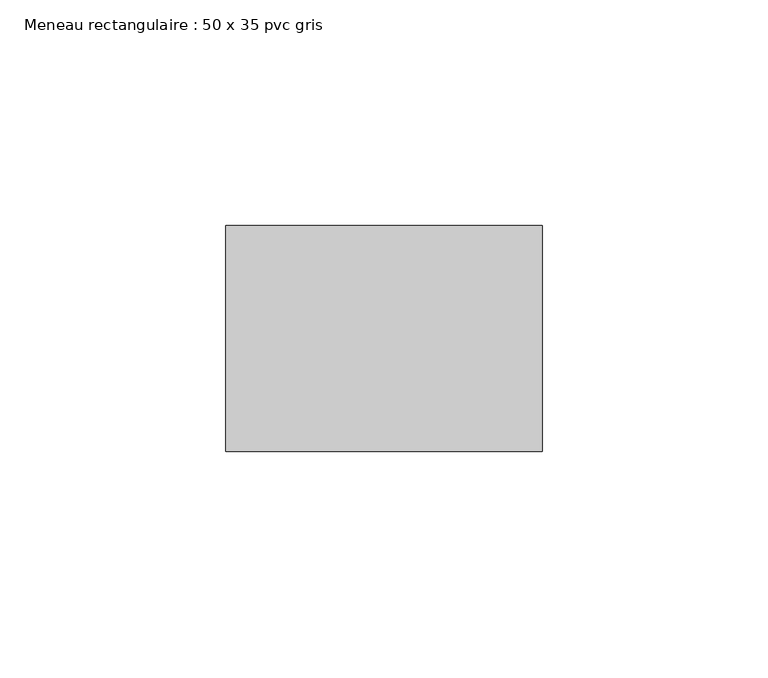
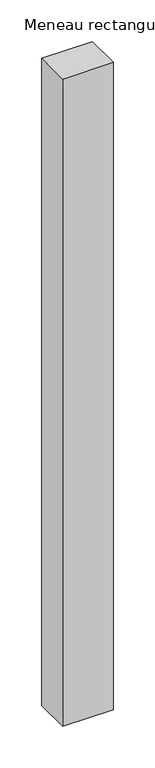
"""IFC4 building model written with IfcOpenShell, lengths in millimetres: member geometry, Meneau rectangulaire : 50 x 35 pvc gris."""

from ifc_helpers import new_model, si_unit, frame, origin, place, context, project, spatial, polyline, outline, extrude, source, transform, mapped, element, save


def meneau_rectangulaire_50_x_35_pvc_gris_b9400f7e(model_context):
    return source(origin(), model_context, "Body", "SweptSolid", [
        extrude(outline(polyline([(0.0, 0.0), (0.0, -50.0), (-70.0, -50.0), (-70.0, 0.0), (0.0, 0.0)])), frame((0.0, 0.0, -948.0026781), z_axis=(0.0, 0.0, 1.0), x_axis=(1.0, 0.0, 0.0)), (0.0, 0.0, 1.0), 948.0026781),
    ])


if __name__ == "__main__":
    model = new_model("IFC4")
    model_context = context("Model", 3, world=origin())
    ifc_project = project(units=[si_unit("LENGTHUNIT", "METRE", prefix="MILLI")], contexts=[model_context])
    site = spatial("IfcSite", under=ifc_project)
    building = spatial("IfcBuilding", under=site)
    placement = place(None, origin())
    meneau_rectangulaire_50_x_35_pvc_gris_shape = meneau_rectangulaire_50_x_35_pvc_gris_b9400f7e(model_context)
    element("IfcMember", 1, ObjectType="Meneau rectangulaire : 50 x 35 pvc gris", at=placement, inside=building, context=model_context, shape_type="MappedRepresentation", body=[
        mapped(meneau_rectangulaire_50_x_35_pvc_gris_shape, transform((0.0, 0.0, 0.0), x_axis=(1.0, 0.0, 0.0), y_axis=(0.0, 1.0, 0.0), z_axis=(0.0, 0.0, 1.0))),
    ])
    save(model, "model.ifc")
